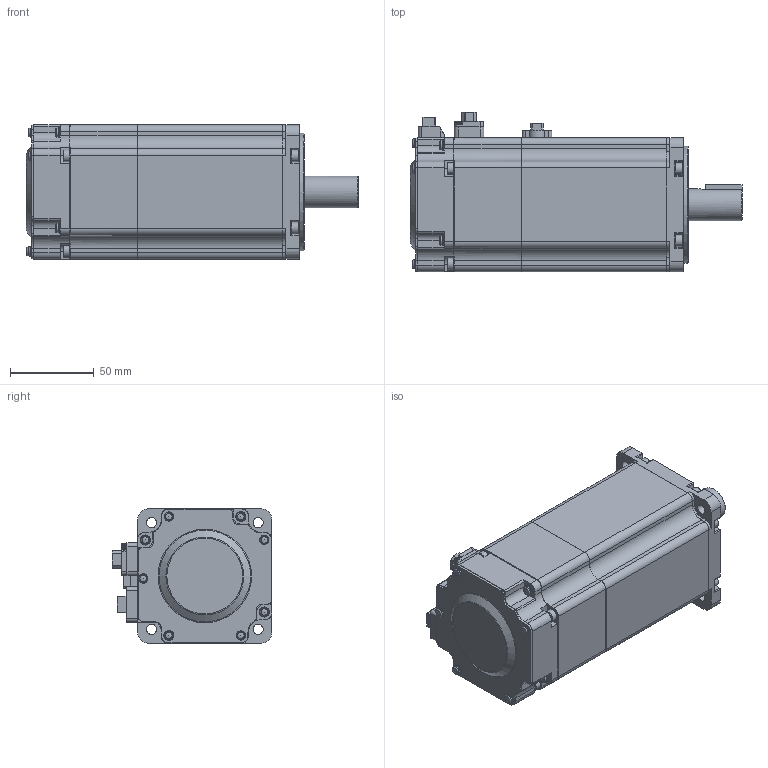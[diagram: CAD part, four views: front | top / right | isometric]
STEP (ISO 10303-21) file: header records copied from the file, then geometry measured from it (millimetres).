
FILE_DESCRIPTION( ( 'STEP AP214' ), '1' );
FILE_NAME( 'e:/temp/worker_130/temp/exporttempdir_1548_980_Ls4wZ/format_0/MSMF092L1V1.stp', '2022-04-08T06:30:14', ( 'License CC BY-ND 4.0' ), ( 'CADENAS' ), ' ', 'PARTsolutions', ' ' );
FILE_SCHEMA( ( 'AUTOMOTIVE_DESIGN { 1 0 10303 214 1 1 1 1 }' ) );
Length unit declared in the file: millimetre
Products named in the file (2): MSMF092L1V1; _MSMF09YesWith key and end of tap_b_connec
Assembly tree (1 placements, depth 2):
  MSMF092L1V1
    _MSMF09YesWith key and end of tap_b_connec
Bounding box: 198.2 x 95.3 x 80 mm (x, y, z)
Volume: 935697.4 mm3; surface area: 70806 mm2
Topology: 1 solids, 1 shells, 841 faces, 2209 edges, 1461 vertices
Faces by surface type: plane 513, cylinder 276, cone 27, torus 13, sphere 8, bspline 4
Full cylindrical faces by diameter (mm): 1.497 x2, 2 x6, 2.3 x4, 4.134 x1, 4.3 x2, 4.4 x2, 5.5 x2, 5.9 x4, 6 x10, 7 x12, 8 x12, 19 x1, 29.4 x1, 31.132 x1, 70 x1
Entity records: 32070 total; most frequent: CARTESIAN_POINT 4501, DIRECTION 4358, ORIENTED_EDGE 4136, EDGE_CURVE 2068, AXIS2_PLACEMENT_3D 1454, LINE 1450, VECTOR 1450, VERTEX_POINT 1445
